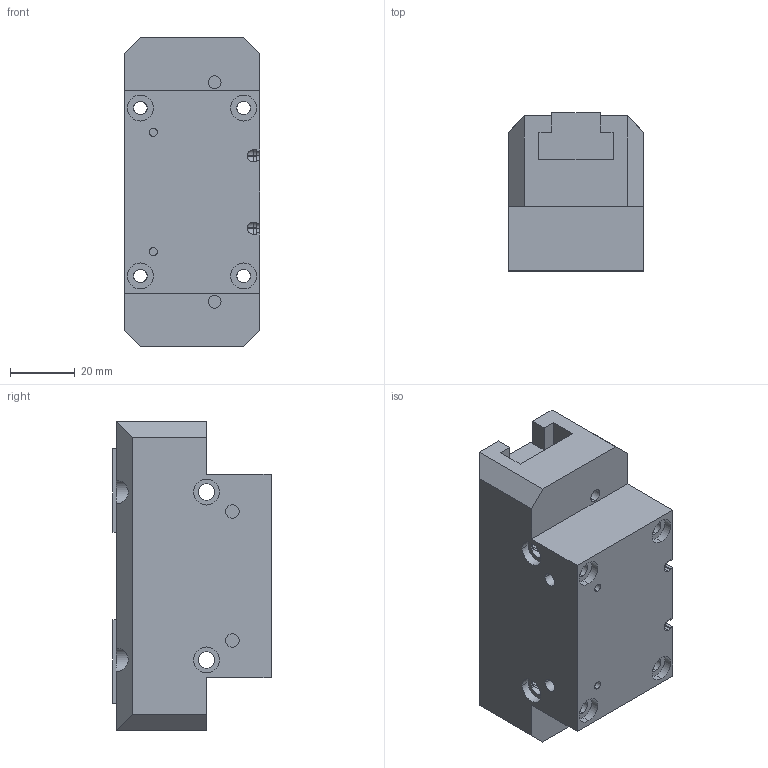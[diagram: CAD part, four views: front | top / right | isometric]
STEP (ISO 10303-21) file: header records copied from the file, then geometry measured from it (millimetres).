
FILE_DESCRIPTION (( 'STEP AP203' ), '1' );
FILE_NAME ('dh3516.STEP', '2011-08-03T08:31:26', ( 'Stefano' ), ( 'Gimatic' ), 'SwSTEP 2.0', 'SolidWorks 2010', '' );
FILE_SCHEMA (( 'CONFIG_CONTROL_DESIGN' ));
Length unit declared in the file: millimetre
Products named in the file (3): dh3516; dh35_griffa; dh35_corpo
Assembly tree (3 placements, depth 2):
  dh3516
    dh35_griffa  x2
    dh35_corpo
Bounding box: 42 x 49 x 96 mm (x, y, z)
Volume: 145131.4 mm3; surface area: 36303.7 mm2
Topology: 3 solids, 3 shells, 192 faces, 496 edges, 312 vertices
Faces by surface type: cylinder 90, plane 90, cone 8, sphere 4
Entity records: 5831 total; most frequent: CARTESIAN_POINT 1364, DIRECTION 878, ORIENTED_EDGE 852, EDGE_CURVE 426, AXIS2_PLACEMENT_3D 316, VERTEX_POINT 274, VECTOR 246, LINE 246
